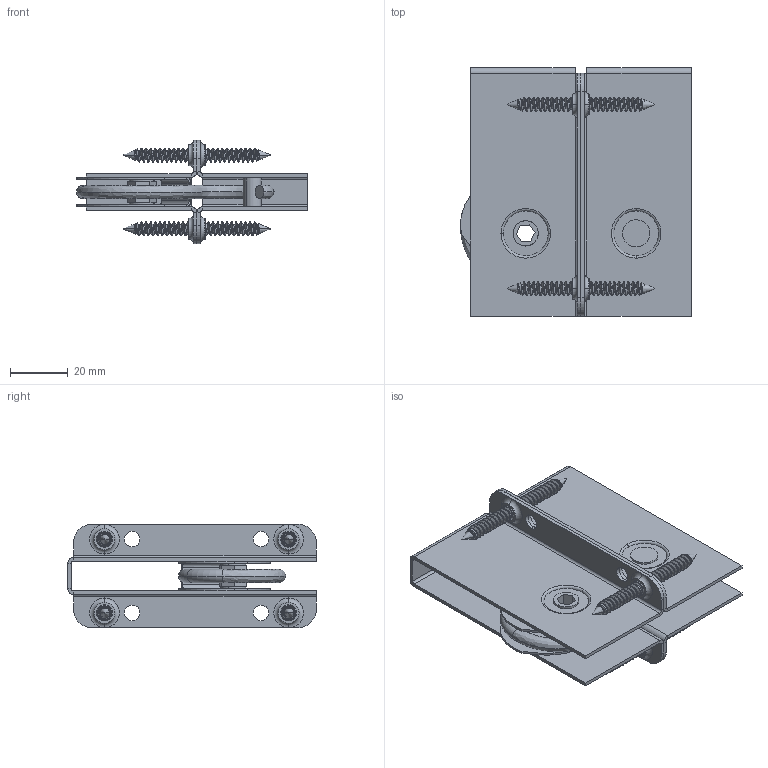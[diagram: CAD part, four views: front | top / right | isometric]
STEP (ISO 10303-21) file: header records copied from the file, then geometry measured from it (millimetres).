
FILE_DESCRIPTION (( 'STEP AP203' ), '1' );
FILE_NAME ('TDS 107-1.STEP', '2014-04-05T23:23:35', ( 'Owner' ), ( '' ), 'SwSTEP 2.0', 'SolidWorks 2011', '' );
FILE_SCHEMA (( 'CONFIG_CONTROL_DESIGN' ));
Length unit declared in the file: inch
Products named in the file (9): S-HOOK TDS 89-1; SPRING PLATE TDS 89-1; TDS 107-1; LARGE RIVET_.375 LG; #10 FHPS_90198A316; S HOOK ASSY TDS 89-1_TDS 36-4A; T1 T2 T3 LARGE HEX KEY; R500-3-750; S1500-3-750
Assembly tree (15 placements, depth 3):
  TDS 107-1
    #10 FHPS_90198A316  x8
    LARGE RIVET_.375 LG
    S HOOK ASSY TDS 89-1_TDS 36-4A
      T1 T2 T3 LARGE HEX KEY
      SPRING PLATE TDS 89-1
      S-HOOK TDS 89-1
    R500-3-750
    S1500-3-750
Bounding box: 79.62 x 85.72 x 35.67 mm (x, y, z)
Volume: 26945.9 mm3; surface area: 46607.1 mm2
Topology: 14 solids, 14 shells, 1091 faces, 2804 edges, 1764 vertices
Faces by surface type: cylinder 448, plane 267, bspline 204, cone 88, torus 84
Entity records: 14938 total; most frequent: CARTESIAN_POINT 5450, DIRECTION 1771, ORIENTED_EDGE 1730, EDGE_CURVE 865, AXIS2_PLACEMENT_3D 698, VERTEX_POINT 532, EDGE_LOOP 425, VECTOR 375
